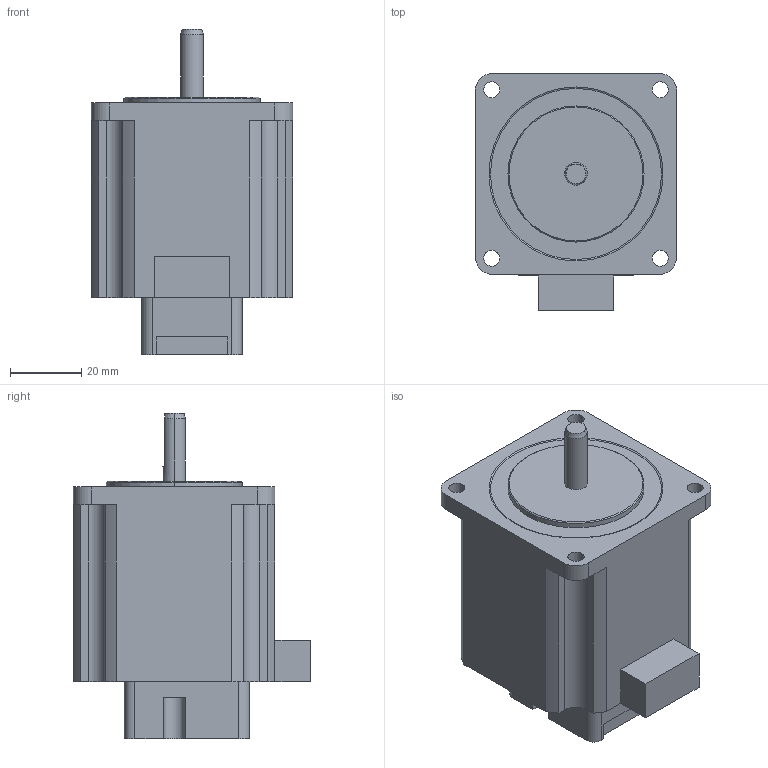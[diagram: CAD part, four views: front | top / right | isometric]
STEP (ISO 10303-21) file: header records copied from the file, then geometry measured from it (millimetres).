
FILE_DESCRIPTION (( 'STEP AP203' ), '1' );
FILE_NAME ('P-PMSA-U56D3ME-NL_3D.STEP', '2020-02-04T02:12:01', ( '' ), ( '' ), 'SwSTEP 2.0', 'SolidWorks 2018', '' );
FILE_SCHEMA (( 'CONFIG_CONTROL_DESIGN' ));
Length unit declared in the file: millimetre
Products named in the file (1): P-PMSA-U56D3ME-NL_3D
Bounding box: 56.4 x 66.4 x 91.1 mm (x, y, z)
Volume: 176174.1 mm3; surface area: 21222.2 mm2
Topology: 1 solids, 1 shells, 84 faces, 230 edges, 152 vertices
Faces by surface type: plane 42, cylinder 35, cone 7
Entity records: 2782 total; most frequent: DIRECTION 479, CARTESIAN_POINT 477, ORIENTED_EDGE 460, EDGE_CURVE 230, AXIS2_PLACEMENT_3D 166, VERTEX_POINT 152, LINE 147, VECTOR 147
